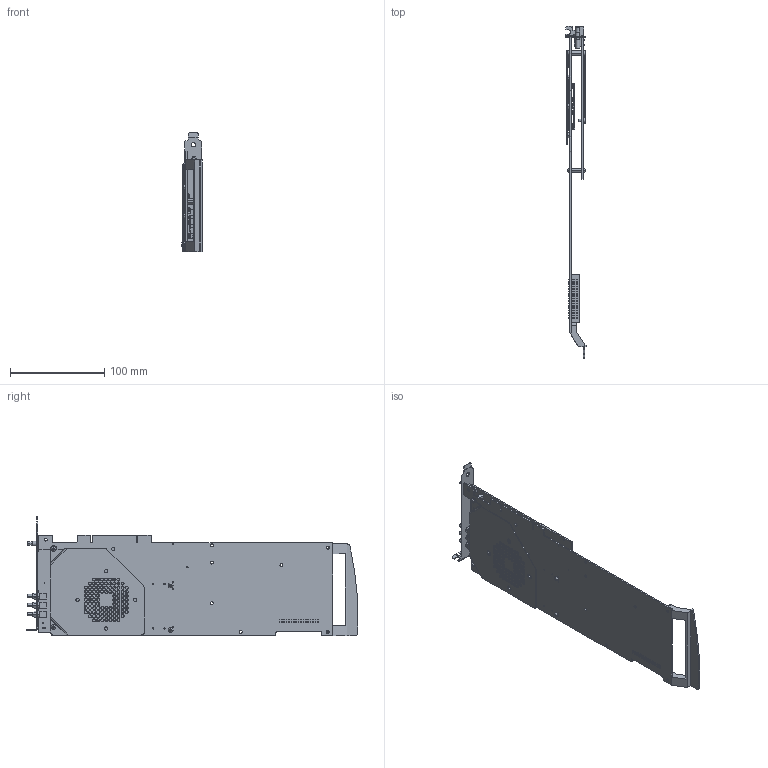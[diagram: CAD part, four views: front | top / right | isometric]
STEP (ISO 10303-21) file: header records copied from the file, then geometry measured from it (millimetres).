
FILE_DESCRIPTION((''),'2;1');
FILE_NAME('CU_PCI-5412','2010-01-18T',('jjorden'),(''),'PRO/ENGINEER BY PARAMETRIC TECHNOLOGY CORPORATION, 2006080','PRO/ENGINEER BY PARAMETRIC TECHNOLOGY CORPORATION, 2006080','');
FILE_SCHEMA(('CONFIG_CONTROL_DESIGN'));
Products named in the file (1): CU_PCI-5412
Bounding box: 22.07 x 352.36 x 126.37 mm (x, y, z)
Volume: 91528.5 mm3; surface area: 131287.5 mm2
Topology: 5 solids, 6 shells, 2224 faces, 5816 edges, 3657 vertices
Faces by surface type: plane 1370, cylinder 649, bspline 80, cone 56, sphere 40, torus 29
Entity records: 74137 total; most frequent: CARTESIAN_POINT 17929, ORIENTED_EDGE 11536, DIRECTION 11530, EDGE_CURVE 5768, VECTOR 3896, LINE 3896, VERTEX_POINT 3885, AXIS2_PLACEMENT_3D 3817
